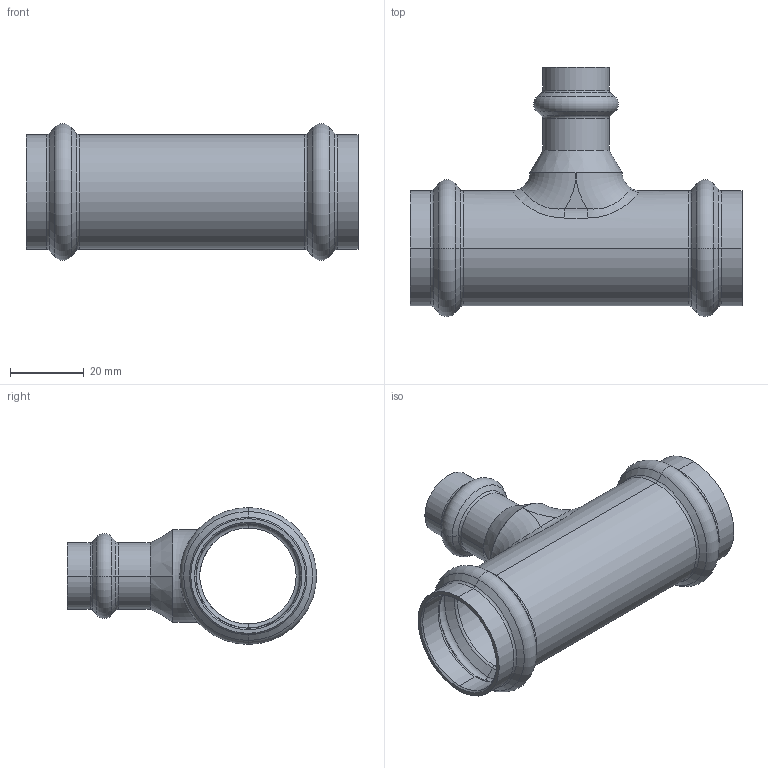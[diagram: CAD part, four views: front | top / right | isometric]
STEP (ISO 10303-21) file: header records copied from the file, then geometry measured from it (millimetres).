
FILE_DESCRIPTION (( 'STEP AP203' ), '1' );
FILE_NAME ('SP5130 Ø28-15-28.STEP', '2017-04-25T14:29:16', ( '' ), ( '' ), 'SwSTEP 2.0', 'SolidWorks 2016', '' );
FILE_SCHEMA (( 'CONFIG_CONTROL_DESIGN' ));
Length unit declared in the file: millimetre
Products named in the file (1): SP5130 Ø28-15-28
Bounding box: 90 x 67.55 x 37.1 mm (x, y, z)
Volume: 19124 mm3; surface area: 22046.1 mm2
Topology: 1 solids, 1 shells, 127 faces, 267 edges, 140 vertices
Faces by surface type: torus 45, cone 36, cylinder 33, plane 7, bspline 6
Entity records: 4825 total; most frequent: CARTESIAN_POINT 2016, DIRECTION 658, ORIENTED_EDGE 526, AXIS2_PLACEMENT_3D 294, EDGE_CURVE 263, CIRCLE 172, VERTEX_POINT 140, EDGE_LOOP 133
